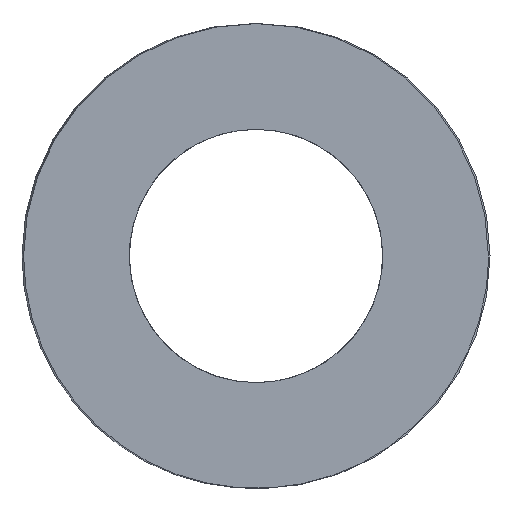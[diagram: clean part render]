
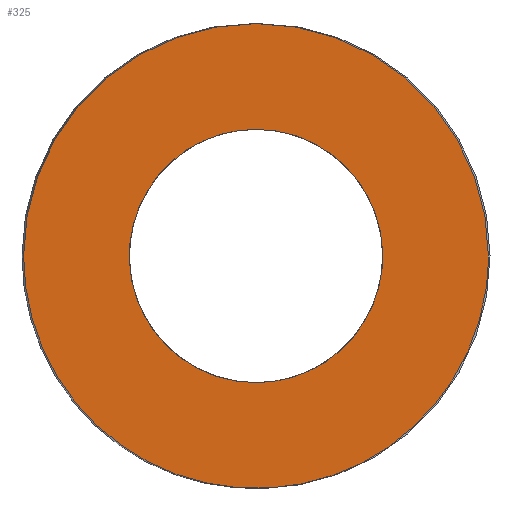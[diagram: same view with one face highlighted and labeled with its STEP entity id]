
A CAD part, left-side view. The second image highlights one B-rep face of the part: STEP entity #325.
In plain terms, the highlighted planar face has unit normal (-1, 0, 0).
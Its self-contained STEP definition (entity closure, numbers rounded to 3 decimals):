
#63=CARTESIAN_POINT('Vertex',(0.,24.4,0.)) ;
#89=CARTESIAN_POINT('Vertex',(0.,-24.4,0.)) ;
#93=CARTESIAN_POINT('Control Point',(0.,24.4,0.)) ;
#94=CARTESIAN_POINT('Control Point',(0.,24.4,-3.833)) ;
#95=CARTESIAN_POINT('Control Point',(0.,23.647,-7.665)) ;
#96=CARTESIAN_POINT('Control Point',(0.,22.142,-11.301)) ;
#97=CARTESIAN_POINT('Control Point',(0.,17.786,-17.786)) ;
#98=CARTESIAN_POINT('Control Point',(0.,11.301,-22.142)) ;
#99=CARTESIAN_POINT('Control Point',(0.,7.665,-23.647)) ;
#100=CARTESIAN_POINT('Control Point',(0.,0.,-25.153)) ;
#101=CARTESIAN_POINT('Control Point',(0.,-7.665,-23.647)) ;
#102=CARTESIAN_POINT('Control Point',(0.,-11.301,-22.142)) ;
#103=CARTESIAN_POINT('Control Point',(0.,-17.786,-17.786)) ;
#104=CARTESIAN_POINT('Control Point',(0.,-22.142,-11.301)) ;
#105=CARTESIAN_POINT('Control Point',(0.,-23.647,-7.665)) ;
#106=CARTESIAN_POINT('Control Point',(0.,-24.4,-3.833)) ;
#107=CARTESIAN_POINT('Control Point',(0.,-24.4,0.)) ;
#121=CARTESIAN_POINT('Axis2P3D Location',(0.,0.,0.)) ;
#256=CARTESIAN_POINT('Axis2P3D Location',(0.,12.2,0.)) ;
#266=CARTESIAN_POINT('Control Point',(0.,0.,-13.3)) ;
#267=CARTESIAN_POINT('Control Point',(0.,1.251,-13.3)) ;
#268=CARTESIAN_POINT('Control Point',(0.,2.501,-13.153)) ;
#269=CARTESIAN_POINT('Control Point',(0.,3.729,-12.859)) ;
#270=CARTESIAN_POINT('Control Point',(0.,6.092,-11.988)) ;
#271=CARTESIAN_POINT('Control Point',(0.,8.189,-10.593)) ;
#272=CARTESIAN_POINT('Control Point',(0.,9.15,-9.774)) ;
#273=CARTESIAN_POINT('Control Point',(0.,10.862,-7.927)) ;
#274=CARTESIAN_POINT('Control Point',(0.,12.099,-5.734)) ;
#275=CARTESIAN_POINT('Control Point',(0.,12.585,-4.569)) ;
#276=CARTESIAN_POINT('Control Point',(0.,13.275,-2.146)) ;
#277=CARTESIAN_POINT('Control Point',(0.,13.384,0.37)) ;
#278=CARTESIAN_POINT('Control Point',(0.,13.289,1.628)) ;
#279=CARTESIAN_POINT('Control Point',(0.,12.807,4.1)) ;
#280=CARTESIAN_POINT('Control Point',(0.,11.764,6.393)) ;
#281=CARTESIAN_POINT('Control Point',(0.,11.11,7.472)) ;
#282=CARTESIAN_POINT('Control Point',(0.,9.56,9.457)) ;
#283=CARTESIAN_POINT('Control Point',(0.,7.591,11.029)) ;
#284=CARTESIAN_POINT('Control Point',(0.,6.519,11.694)) ;
#285=CARTESIAN_POINT('Control Point',(0.,4.601,12.592)) ;
#286=CARTESIAN_POINT('Control Point',(0.,2.551,13.095)) ;
#287=CARTESIAN_POINT('Control Point',(0.,1.706,13.232)) ;
#288=CARTESIAN_POINT('Control Point',(0.,0.853,13.3)) ;
#289=CARTESIAN_POINT('Control Point',(0.,0.,13.3)) ;
#290=CARTESIAN_POINT('Vertex',(0.,0.,-13.3)) ;
#292=CARTESIAN_POINT('Vertex',(0.,0.,13.3)) ;
#296=CARTESIAN_POINT('Control Point',(0.,0.,13.3)) ;
#297=CARTESIAN_POINT('Control Point',(0.,-1.251,13.3)) ;
#298=CARTESIAN_POINT('Control Point',(0.,-2.501,13.153)) ;
#299=CARTESIAN_POINT('Control Point',(0.,-3.729,12.859)) ;
#300=CARTESIAN_POINT('Control Point',(0.,-6.092,11.988)) ;
#301=CARTESIAN_POINT('Control Point',(0.,-8.189,10.593)) ;
#302=CARTESIAN_POINT('Control Point',(0.,-9.15,9.774)) ;
#303=CARTESIAN_POINT('Control Point',(0.,-10.862,7.927)) ;
#304=CARTESIAN_POINT('Control Point',(0.,-12.099,5.734)) ;
#305=CARTESIAN_POINT('Control Point',(0.,-12.585,4.569)) ;
#306=CARTESIAN_POINT('Control Point',(0.,-13.275,2.146)) ;
#307=CARTESIAN_POINT('Control Point',(0.,-13.384,-0.37)) ;
#308=CARTESIAN_POINT('Control Point',(0.,-13.289,-1.628)) ;
#309=CARTESIAN_POINT('Control Point',(0.,-12.807,-4.1)) ;
#310=CARTESIAN_POINT('Control Point',(0.,-11.764,-6.393)) ;
#311=CARTESIAN_POINT('Control Point',(0.,-11.11,-7.472)) ;
#312=CARTESIAN_POINT('Control Point',(0.,-9.56,-9.457)) ;
#313=CARTESIAN_POINT('Control Point',(0.,-7.591,-11.029)) ;
#314=CARTESIAN_POINT('Control Point',(0.,-6.519,-11.694)) ;
#315=CARTESIAN_POINT('Control Point',(0.,-4.601,-12.592)) ;
#316=CARTESIAN_POINT('Control Point',(0.,-2.551,-13.095)) ;
#317=CARTESIAN_POINT('Control Point',(0.,-1.706,-13.232)) ;
#318=CARTESIAN_POINT('Control Point',(0.,-0.853,-13.3)) ;
#319=CARTESIAN_POINT('Control Point',(0.,0.,-13.3)) ;
#122=DIRECTION('Axis2P3D Direction',(1.,-0.,0.)) ;
#257=DIRECTION('Axis2P3D Direction',(-1.,0.,0.)) ;
#258=DIRECTION('Axis2P3D XDirection',(0.,1.,0.)) ;
#123=AXIS2_PLACEMENT_3D('Circle Axis2P3D',#121,#122,$) ;
#259=AXIS2_PLACEMENT_3D('Plane Axis2P3D',#256,#257,#258) ;
#262=ORIENTED_EDGE('',*,*,#108,.T.) ;
#263=ORIENTED_EDGE('',*,*,#125,.T.) ;
#322=ORIENTED_EDGE('',*,*,#294,.T.) ;
#323=ORIENTED_EDGE('',*,*,#320,.T.) ;
#324=FACE_BOUND('',#321,.T.) ;
#325=ADVANCED_FACE('392-B50-089',(#264,#324),#260,.T.) ;
#92=B_SPLINE_CURVE_WITH_KNOTS('',5,(#93,#94,#95,#96,#97,#98,#99,#100,#101,#102,#103,#104,#105,#106,#107),.UNSPECIFIED.,.F.,.U.,(6,3,3,3,6),(-38.327,-19.164,0.,19.164,38.327),.UNSPECIFIED.) ;
#265=B_SPLINE_CURVE_WITH_KNOTS('',5,(#266,#267,#268,#269,#270,#271,#272,#273,#274,#275,#276,#277,#278,#279,#280,#281,#282,#283,#284,#285,#286,#287,#288,#289),.UNSPECIFIED.,.F.,.U.,(6,3,3,3,3,3,3,6),(0.,8.843,17.686,26.53,35.373,44.216,53.059,59.09),.UNSPECIFIED.) ;
#295=B_SPLINE_CURVE_WITH_KNOTS('',5,(#296,#297,#298,#299,#300,#301,#302,#303,#304,#305,#306,#307,#308,#309,#310,#311,#312,#313,#314,#315,#316,#317,#318,#319),.UNSPECIFIED.,.F.,.U.,(6,3,3,3,3,3,3,6),(0.,8.843,17.686,26.53,35.373,44.216,53.059,59.09),.UNSPECIFIED.) ;
#124=CIRCLE('generated circle',#123,24.4) ;
#108=EDGE_CURVE('',#64,#90,#92,.T.) ;
#125=EDGE_CURVE('',#90,#64,#124,.F.) ;
#294=EDGE_CURVE('',#291,#293,#265,.T.) ;
#320=EDGE_CURVE('',#293,#291,#295,.T.) ;
#261=EDGE_LOOP('',(#262,#263)) ;
#321=EDGE_LOOP('',(#322,#323)) ;
#264=FACE_OUTER_BOUND('',#261,.T.) ;
#260=PLANE('Plane',#259) ;
#64=VERTEX_POINT('',#63) ;
#90=VERTEX_POINT('',#89) ;
#291=VERTEX_POINT('',#290) ;
#293=VERTEX_POINT('',#292) ;
